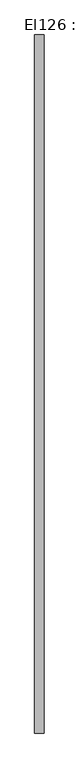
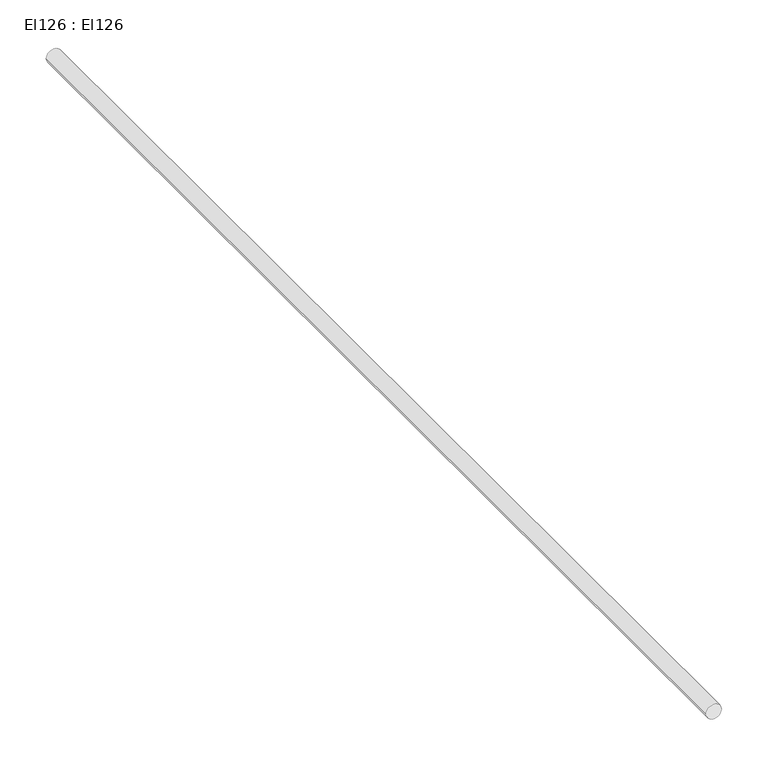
"""IFC4 building model written with IfcOpenShell, lengths in millimetres: cable carrier segment geometry, El126 : El126."""

from ifc_helpers import new_model, si_unit, point, frame, frame_2d, origin, place, context, project, spatial, circle_curve, trimmed, segment, composite_curve, outline, extrude, source, transform, mapped, element, save


def el126_el126_961ac4da(model_context):
    return source(origin(), model_context, "Body", "SweptSolid", [
        extrude(outline(composite_curve([segment(trimmed(circle_curve(frame_2d((2950.0, 27630.0)), 9.5), [point((2950.0, 27620.5))], [point((2950.0, 27639.5))], False, "CARTESIAN"), True, "CONTINUOUS"), segment(trimmed(circle_curve(frame_2d((2950.0, 27630.0)), 9.5), [point((2950.0, 27639.5))], [point((2950.0, 27620.5))], False, "CARTESIAN"), True, "CONTINUOUS")], self_intersect=False)), frame((0.0, 9471.183, 0.0), z_axis=(0.0, 1.0, 0.0), x_axis=(0.0, 0.0, 1.0)), (0.0, 0.0, 1.0), 1420.03),
    ])


if __name__ == "__main__":
    model = new_model("IFC4")
    model_context = context("Model", 3, world=origin())
    ifc_project = project(units=[si_unit("LENGTHUNIT", "METRE", prefix="MILLI")], contexts=[model_context])
    site = spatial("IfcSite", under=ifc_project)
    building = spatial("IfcBuilding", under=site)
    placement = place(None, origin())
    el126_el126_shape = el126_el126_961ac4da(model_context)
    element("IfcCableCarrierSegment", 1, ObjectType="El126 : El126", at=placement, inside=building, context=model_context, shape_type="MappedRepresentation", body=[
        mapped(el126_el126_shape, transform((0.0, 0.0, 0.0), x_axis=(1.0, 0.0, 0.0), y_axis=(0.0, 1.0, 0.0), z_axis=(0.0, 0.0, 1.0))),
    ])
    save(model, "model.ifc")
